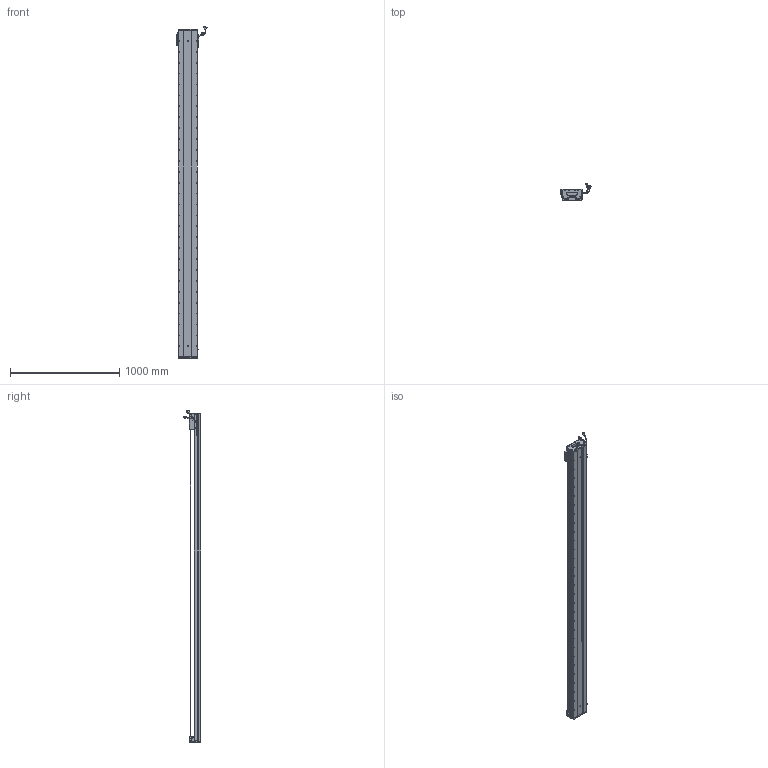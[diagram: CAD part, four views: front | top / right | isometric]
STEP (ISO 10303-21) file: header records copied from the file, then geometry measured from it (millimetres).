
FILE_DESCRIPTION (( 'STEP AP203' ), '1' );
FILE_NAME ('Z1-RY170D-1-L500-B-K.SLDASM_2800.step', '2021-05-17T08:56:53', ( '盈信电脑' ), ( '东莞市道滘镇水果街19号' ), 'SwSTEP 2.0', 'SolidWorks 2016', '' );
FILE_SCHEMA (( 'CONFIG_CONTROL_DESIGN' ));
Length unit declared in the file: millimetre
Products named in the file (36): LABEL; SCREW-M1.6; SCREW-M1.6-2; 170-Z-臏賑輸盄裔(21遴); 覜茼ん672; LABEL-Part-1; SCALE-Part-2; HARNESS-Part-1; HOLDER0; SHIELDPLATE; 140雄赽晤鎢ん堤盄; Z1-RY170-L500耀郪菁釱_2800; PSLH080_PSLF2; COVER-Part-1; 140蚥薯蝶輸; 榋妏寠巭燃_暯_M2_2; Z-170詩湍傷裔啣; SCALE-Part-1; Z1-RY170D-1-L500-B-K.SLDASM_2800; SCREW-M1.6-3; Z-RY170詩湍奻揤裔; HARNESS; RY170直线电机感应器672光电感应片; SCREW-M1.7; 080黍杅芛假蚾釱21遴; SCALE; HARNESS-Part-2; SCREW-M1.6-1; Z1-RY170-L500詩湍145mm遵_2800; Z-RY170詩湍狟揤裔; SEAL; COVER; Z1-RY170臏賑輸(21遴); PBU_SHEET; SCREW-M1.7-1; SEAL-Part-1
Assembly tree (41 placements, depth 4):
  Z1-RY170D-1-L500-B-K.SLDASM_2800
    Z1-RY170-L500耀郪菁釱_2800
    RY170直线电机感应器672光电感应片
    Z1-RY170臏賑輸(21遴)
    覜茼ん672  x3
    PSLH080_PSLF2
      SCALE
        SCALE-Part-1
        SCALE-Part-2
      HARNESS
        HARNESS-Part-1
        HARNESS-Part-2
      LABEL
        LABEL-Part-1
      COVER
        COVER-Part-1
      SEAL
        SEAL-Part-1
      榋妏寠巭燃_暯_M2_2
      SHIELDPLATE
      SCREW-M1.7
      SCREW-M1.7-1
      PBU_SHEET
      SCREW-M1.6
      SCREW-M1.6-1
      SCREW-M1.6-2
      SCREW-M1.6-3
      HOLDER0
    080黍杅芛假蚾釱21遴
    Z1-RY170-L500詩湍145mm遵_2800
    Z-170詩湍傷裔啣  x2
    Z-RY170詩湍奻揤裔  x2
    Z-RY170詩湍狟揤裔  x2
    140蚥薯蝶輸  x2
    170-Z-臏賑輸盄裔(21遴)
    140雄赽晤鎢ん堤盄
Bounding box: 275.29 x 158.11 x 3043.72 mm (x, y, z)
Volume: 14387673.1 mm3; surface area: 3600372.8 mm2
Topology: 36 solids, 36 shells, 4210 faces, 11761 edges, 7337 vertices
Faces by surface type: cylinder 2156, plane 1328, cone 604, torus 69, bspline 53
Entity records: 134209 total; most frequent: CARTESIAN_POINT 38322, ORIENTED_EDGE 19886, DIRECTION 18287, EDGE_CURVE 9943, AXIS2_PLACEMENT_3D 6732, VERTEX_POINT 6455, LINE 4823, VECTOR 4823
